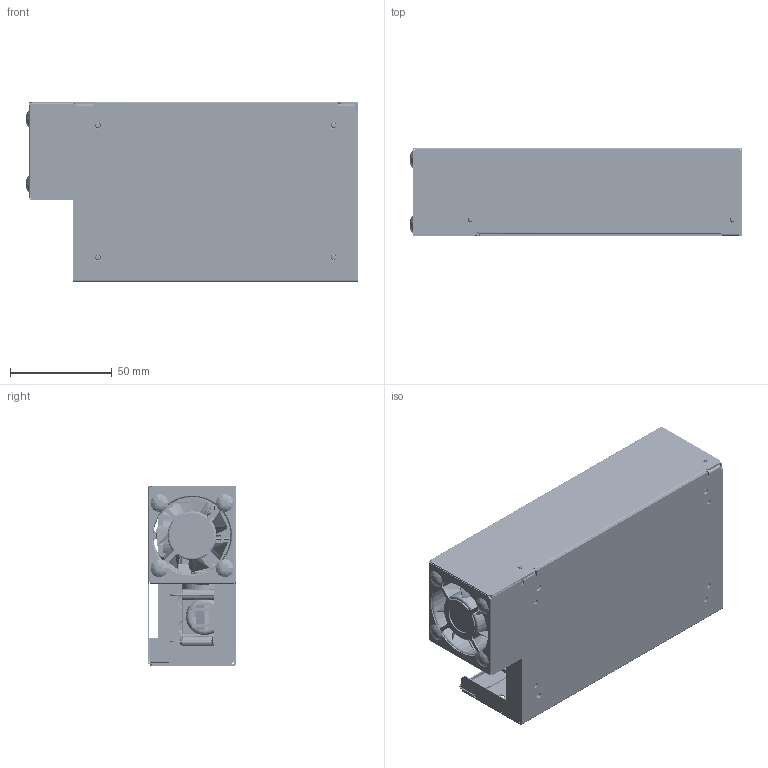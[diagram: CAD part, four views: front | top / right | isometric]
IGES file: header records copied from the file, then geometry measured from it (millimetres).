
Start section: SolidWorks IGES file using analytic representation for surfaces
Global section: file name: G:\USER\Common for ENG DEPT\TO Jayesh Patel\GCS180-EF\GCS180PSXX WITH END FAN.IGS; native system: SolidWorks 2012; preprocessor: SolidWorks 2012; author: KEVYOU; date: 130711.154422; units: inch
Bounding box: 162.81 x 43.18 x 88.62 mm (x, y, z)
Surface area: 213096.2 mm2 (no closed solid volume)
Topology: 0 solids, 0 shells, 5198 faces, 58121 edges, 58026 vertices
Faces by surface type: bspline 2928, revolution 2270
